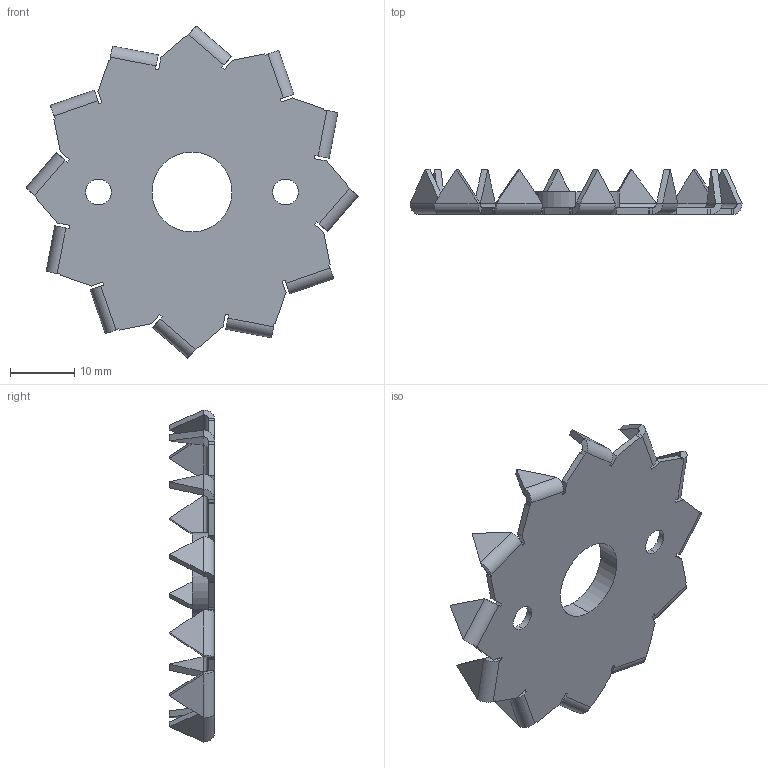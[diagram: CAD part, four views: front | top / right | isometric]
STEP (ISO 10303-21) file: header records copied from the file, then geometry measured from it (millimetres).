
FILE_DESCRIPTION (( 'STEP AP203' ), '1' );
FILE_NAME ('E48.STEP', '2020-05-22T09:55:55', ( '' ), ( '' ), 'SwSTEP 2.0', 'SolidWorks 2013', '' );
FILE_SCHEMA (( 'CONFIG_CONTROL_DESIGN' ));
Length unit declared in the file: millimetre
Products named in the file (1): E48
Bounding box: 51.51 x 7 x 51.51 mm (x, y, z)
Volume: 1856 mm3; surface area: 4181.4 mm2
Topology: 1 solids, 1 shells, 179 faces, 432 edges, 256 vertices
Faces by surface type: plane 147, cylinder 32
Entity records: 5131 total; most frequent: CARTESIAN_POINT 868, ORIENTED_EDGE 864, DIRECTION 856, EDGE_CURVE 432, VECTOR 368, LINE 368, VERTEX_POINT 256, AXIS2_PLACEMENT_3D 244
